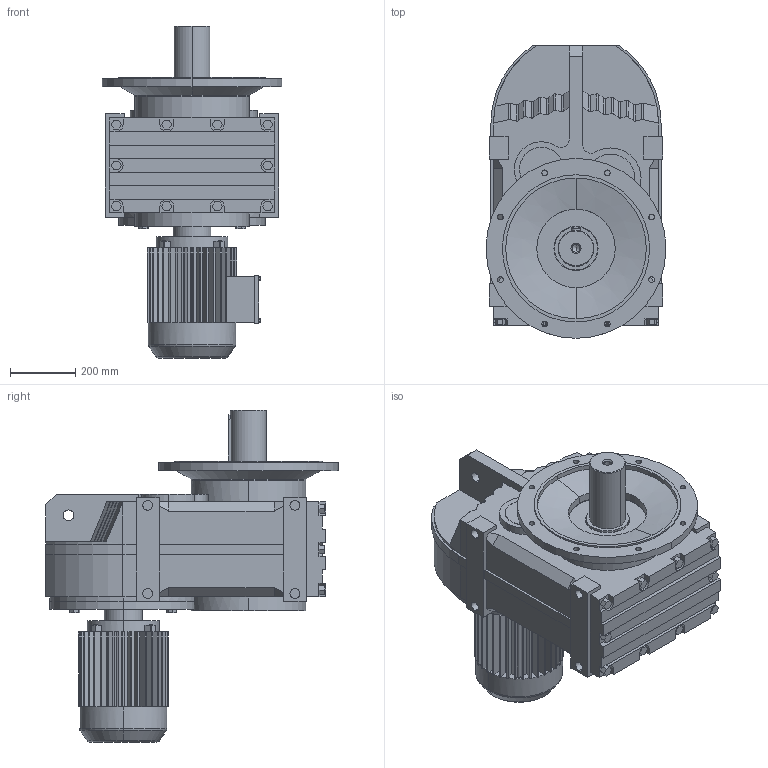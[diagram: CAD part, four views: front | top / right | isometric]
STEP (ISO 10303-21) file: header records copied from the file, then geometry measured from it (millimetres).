
FILE_DESCRIPTION(('Open CASCADE Model'),'2;1');
FILE_NAME('Open CASCADE Shape Model','2021-07-20T10:05:13',('Author'),( 'Open CASCADE'),'Open CASCADE STEP processor 6.3','Open CASCADE 6.3' ,'Unknown');
FILE_SCHEMA(('AUTOMOTIVE_DESIGN_CC2 { 1 2 10303 214 -1 1 5 4 }'));
Length unit declared in the file: millimetre
Products named in the file (5): 1_FF127-Y132M; FA27‵157_127.step; 萇儂_450_Y132M.step; す瑩妗陑粣F_127.step; 楊擘F_127.step
Assembly tree (4 placements, depth 2):
  1_FF127-Y132M
    FA27‵157_127.step
    萇儂_450_Y132M.step
    す瑩妗陑粣F_127.step
    楊擘F_127.step
Bounding box: 550 x 895 x 1015 mm (x, y, z)
Volume: 156385997 mm3; surface area: 3982315.8 mm2
Topology: 4 solids, 4 shells, 831 faces, 2178 edges, 1416 vertices
Faces by surface type: plane 570, cylinder 229, bspline 16, cone 12, torus 4
Entity records: 56239 total; most frequent: CARTESIAN_POINT 14679, DIRECTION 7213, ORIENTED_EDGE 4352, PCURVE 4352, DEFINITIONAL_REPRESENTATION 4352, LINE 3915, VECTOR 3915, EDGE_CURVE 2176
